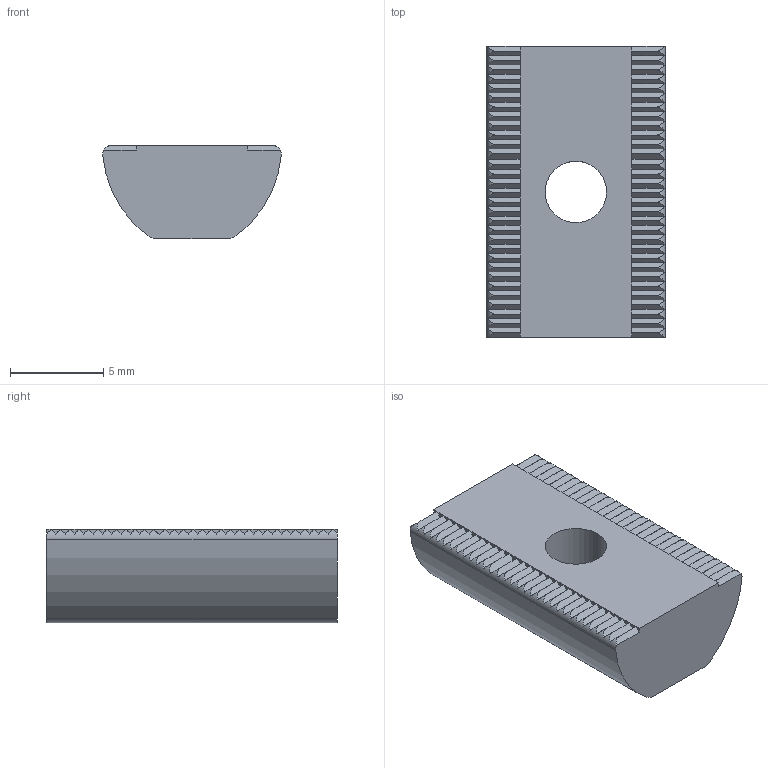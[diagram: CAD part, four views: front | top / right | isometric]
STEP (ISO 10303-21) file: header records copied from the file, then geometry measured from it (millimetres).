
FILE_DESCRIPTION (( 'STEP AP214' ), '1' );
FILE_NAME ('J3M4FDE.step', '2017-05-24T07:39:22', ( 'admin' ), ( '' ), 'SwSTEP 2.0', 'SolidWorks 2014', '' );
FILE_SCHEMA (( 'AUTOMOTIVE_DESIGN' ));
Length unit declared in the file: millimetre
Products named in the file (1): J3M4FDE
Bounding box: 9.57 x 15.6 x 5 mm (x, y, z)
Volume: 576.5 mm3; surface area: 529.9 mm2
Topology: 1 solids, 1 shells, 200 faces, 470 edges, 272 vertices
Faces by surface type: plane 192, cylinder 8
Entity records: 5518 total; most frequent: CARTESIAN_POINT 1315, ORIENTED_EDGE 940, DIRECTION 764, EDGE_CURVE 470, LINE 330, VECTOR 330, VERTEX_POINT 272, AXIS2_PLACEMENT_3D 217
